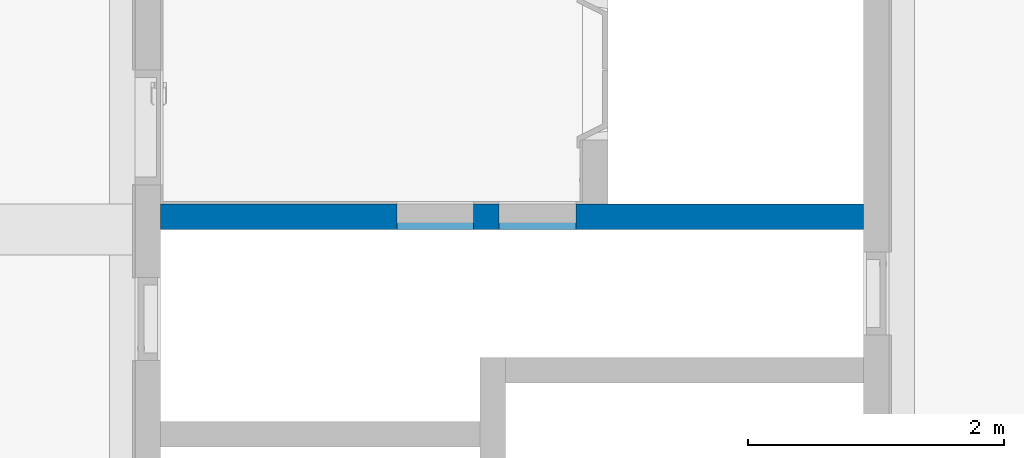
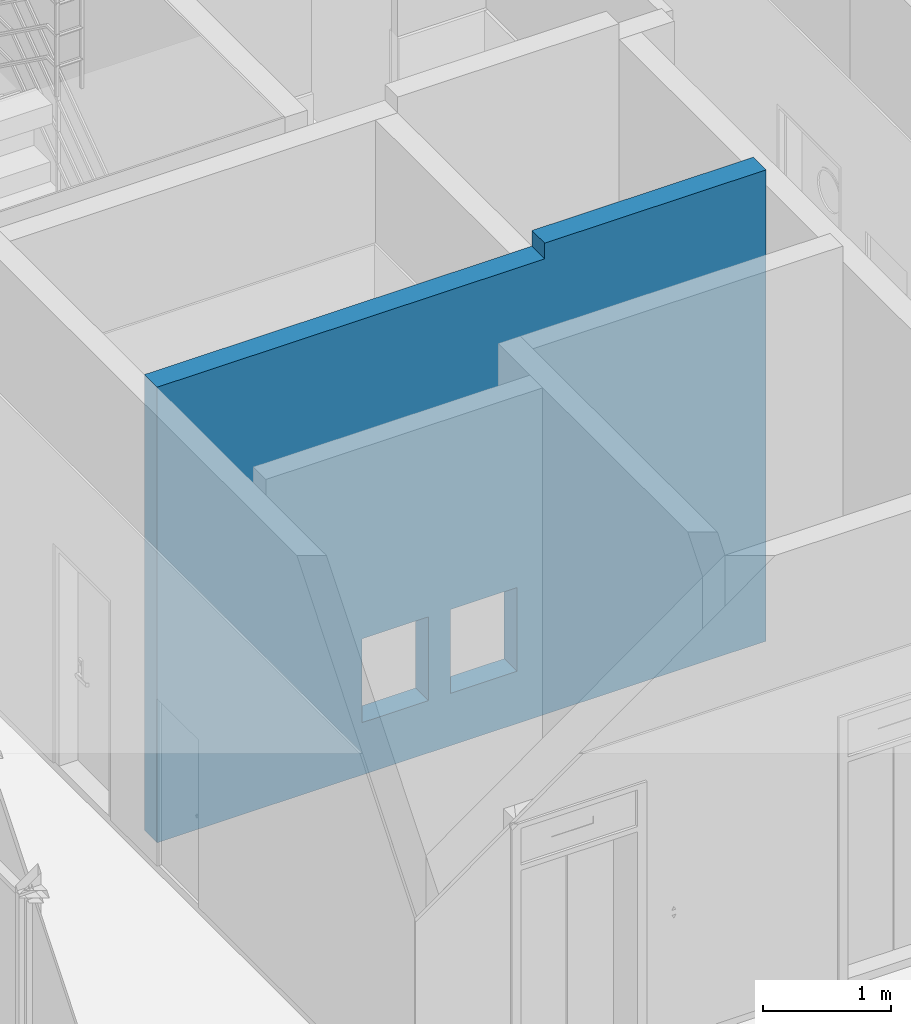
# One storey, part 51 of 74: 1 wall, 2 openings.
"""IFC2X3 building model written with IfcOpenShell, lengths in millimetres."""

from ifc_helpers import new_model, entity, si_unit, converted_unit, derived_unit, direction, frame, frame_2d, origin, place, context, subcontext, project, spatial, polyline, rectangle, extrude, clip, bounded_halfspace, material, layer, layer_set, layer_usage, type_object, element, save


model = new_model("IFC2X3")

# Units and contexts
model_context = context("Model", 3, precision=0.01, world=origin(), true_north=direction((6.123031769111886e-17, 1.0)))
body_context = subcontext(model_context, "Body", "Model", "MODEL_VIEW")
ifc_project = project(units=[si_unit("LENGTHUNIT", "METRE", prefix="MILLI"), si_unit("AREAUNIT", "SQUARE_METRE"), si_unit("VOLUMEUNIT", "CUBIC_METRE"), converted_unit("PLANEANGLEUNIT", "DEGREE", entity("IfcRatioMeasure", 0.017453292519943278), si_unit("PLANEANGLEUNIT", "RADIAN"), dimensions=[0, 0, 0, 0, 0, 0, 0]), si_unit("MASSUNIT", "GRAM", prefix="KILO"), derived_unit("MASSDENSITYUNIT", [(si_unit("MASSUNIT", "GRAM", prefix="KILO"), 1), (si_unit("LENGTHUNIT", "METRE"), -3)]), derived_unit("MOMENTOFINERTIAUNIT", [(si_unit("LENGTHUNIT", "METRE"), 4)]), si_unit("TIMEUNIT", "SECOND"), si_unit("FREQUENCYUNIT", "HERTZ"), si_unit("THERMODYNAMICTEMPERATUREUNIT", "DEGREE_CELSIUS"), derived_unit("THERMALTRANSMITTANCEUNIT", [(si_unit("MASSUNIT", "GRAM", prefix="KILO"), 1), (si_unit("THERMODYNAMICTEMPERATUREUNIT", "KELVIN"), -1), (si_unit("TIMEUNIT", "SECOND"), -3)]), derived_unit("VOLUMETRICFLOWRATEUNIT", [(si_unit("LENGTHUNIT", "METRE"), 3), (si_unit("TIMEUNIT", "SECOND"), -1)]), derived_unit("MASSFLOWRATEUNIT", [(si_unit("MASSUNIT", "GRAM", prefix="KILO"), 1), (si_unit("TIMEUNIT", "SECOND"), -1)]), derived_unit("ROTATIONALFREQUENCYUNIT", [(si_unit("TIMEUNIT", "SECOND"), -1)]), si_unit("ELECTRICCURRENTUNIT", "AMPERE"), si_unit("ELECTRICVOLTAGEUNIT", "VOLT"), si_unit("POWERUNIT", "WATT"), si_unit("FORCEUNIT", "NEWTON", prefix="KILO"), si_unit("ILLUMINANCEUNIT", "LUX"), si_unit("LUMINOUSFLUXUNIT", "LUMEN"), si_unit("LUMINOUSINTENSITYUNIT", "CANDELA"), derived_unit("USERDEFINED", [(si_unit("MASSUNIT", "GRAM", prefix="KILO"), -1), (si_unit("LENGTHUNIT", "METRE"), -2), (si_unit("TIMEUNIT", "SECOND"), 3), (si_unit("LUMINOUSFLUXUNIT", "LUMEN"), 1)]), derived_unit("SOUNDPOWERUNIT", [(si_unit("MASSUNIT", "GRAM", prefix="KILO"), 1), (si_unit("LENGTHUNIT", "METRE"), 2), (si_unit("TIMEUNIT", "SECOND"), -3)]), derived_unit("SOUNDPRESSUREUNIT", [(si_unit("MASSUNIT", "GRAM", prefix="KILO"), 1), (si_unit("LENGTHUNIT", "METRE"), -1), (si_unit("TIMEUNIT", "SECOND"), -2)]), derived_unit("LINEARVELOCITYUNIT", [(si_unit("LENGTHUNIT", "METRE"), 1), (si_unit("TIMEUNIT", "SECOND"), -1)]), si_unit("PRESSUREUNIT", "PASCAL"), derived_unit("USERDEFINED", [(si_unit("LENGTHUNIT", "METRE"), -2), (si_unit("MASSUNIT", "GRAM", prefix="KILO"), 1), (si_unit("TIMEUNIT", "SECOND"), -2)]), derived_unit("LINEARFORCEUNIT", [(si_unit("MASSUNIT", "GRAM", prefix="KILO"), 1), (si_unit("LENGTHUNIT", "METRE"), 1), (si_unit("TIMEUNIT", "SECOND"), -2), (si_unit("LENGTHUNIT", "METRE"), -1)]), derived_unit("PLANARFORCEUNIT", [(si_unit("MASSUNIT", "GRAM", prefix="KILO"), 1), (si_unit("LENGTHUNIT", "METRE"), 1), (si_unit("TIMEUNIT", "SECOND"), -2), (si_unit("LENGTHUNIT", "METRE"), -2)])], contexts=[model_context])

# Site, building, storey
site_placement = place(None, frame((-14167.972527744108, -657.2125860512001, 0.0)))
site = spatial("IfcSite", under=ifc_project, at=site_placement, Name="Default", CompositionType="ELEMENT")
building_placement = place(site_placement, origin())
building = spatial("IfcBuilding", under=site, at=building_placement, Name="Sample Building", CompositionType="ELEMENT")
storey_placement = place(building_placement, frame((0.0, 0.0, 4800.0)))
storey = spatial("IfcBuildingStorey", under=building, at=storey_placement, Name="지상 2층", CompositionType="ELEMENT", Elevation=4800.000000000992)

# Wall, openings
ifc_material = material(Name="KBIMS-콘크리트")
ifc_layer = layer(ifc_material, 200.0)
ifc_layer_set = layer_set([ifc_layer], Name="기본 벽:WA111-철근콘크리트구조 벽 200mm_CW1")
ifc_layer_usage = layer_usage(ifc_layer_set, "AXIS2", "NEGATIVE", 100.0)
wall_type = type_object("IfcWallType", Name="기본 벽:WA111-철근콘크리트구조 벽 200mm_CW1", PredefinedType="STANDARD", material=ifc_layer_set)
wall_placement = place(storey_placement, frame((30267.963761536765, 20057.212307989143, -1.9340006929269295e-09)))
wall = element("IfcWallStandardCase", 1, at=wall_placement, inside=storey, type_object=wall_type, material=ifc_layer_usage, Name="기본 벽:WA111-철근콘크리트구조 벽 200mm_CW1", ObjectType="기본 벽:WA111-철근콘크리트구조 벽 200mm_CW1", context=body_context, shape_type="Clipping", body=[
    clip(clip(extrude(rectangle(XDim=5500.008729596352, YDim=199.99999999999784, at=frame_2d((2750.004364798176, -1.2079226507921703e-13), x_axis=(-1.0, 0.0))), origin(), (0.0, 0.0, 1.0), 4500.000000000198), bounded_halfspace(frame((3500.0087295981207, -100.0, 4350.0), z_axis=(0.0, 0.0, -1.0), x_axis=(1.0, 0.0, 0.0)), True, frame((3500.0087295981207, -100.0, 4350.0), z_axis=(0.0, 0.0, -1.0), x_axis=(1.0, 0.0, 0.0)), polyline([(0.0, 0.0), (-1066802.660781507, -1.1521706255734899e-09), (-1066802.6607815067, -60960.0), (-60960.0, -60960.0), (0.0, -60960.0), (0.0, 0.0)]))), bounded_halfspace(frame((3500.0087295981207, 100.0, 4350.0), z_axis=(1.0, 0.0, 0.0), x_axis=(0.0, 0.0, 1.0)), True, frame((3500.0087295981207, 100.0, 4350.0), z_axis=(1.0, 0.0, 0.0), x_axis=(0.0, 0.0, 1.0)), polyline([(0.0, -1.321097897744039e-09), (45720.0, -1.321097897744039e-09), (45720.0, 60960.0), (0.0, 60960.0), (0.0, -1.321097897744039e-09)]))),
])
opening_1_placement = place(wall_placement, frame((1850.0085491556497, -100.0, 500.0)))
element("IfcOpeningElement", 2, at=opening_1_placement, cuts=wall, Name="WD733-그릴창(알루미늄):WD733-그릴창(알루미늄)_600x800mm:1", ObjectType="Opening", context=body_context, shape_type="SweptSolid", body=[
    extrude(rectangle(XDim=800.0000000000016, YDim=600.0000000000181, at=frame_2d((400.000000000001, 300.0000000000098), x_axis=(-1.0, 0.0))), frame((0.0, 0.0, 0.0), z_axis=(0.0, 1.0, 0.0), x_axis=(0.0, 0.0, 1.0)), (0.0, 0.0, 1.0), 200.0),
])
opening_2_placement = place(wall_placement, frame((2650.0088198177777, -100.0, 500.0)))
element("IfcOpeningElement", 3, at=opening_2_placement, cuts=wall, Name="WD733-그릴창(알루미늄):WD733-그릴창(알루미늄)_600x800mm:1", ObjectType="Opening", context=body_context, shape_type="SweptSolid", body=[
    extrude(rectangle(XDim=800.0000000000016, YDim=600.0000000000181, at=frame_2d((400.000000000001, 300.0000000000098), x_axis=(-1.0, 0.0))), frame((0.0, 0.0, 0.0), z_axis=(0.0, 1.0, 0.0), x_axis=(0.0, 0.0, 1.0)), (0.0, 0.0, 1.0), 200.0),
])

save(model, "model.ifc")
